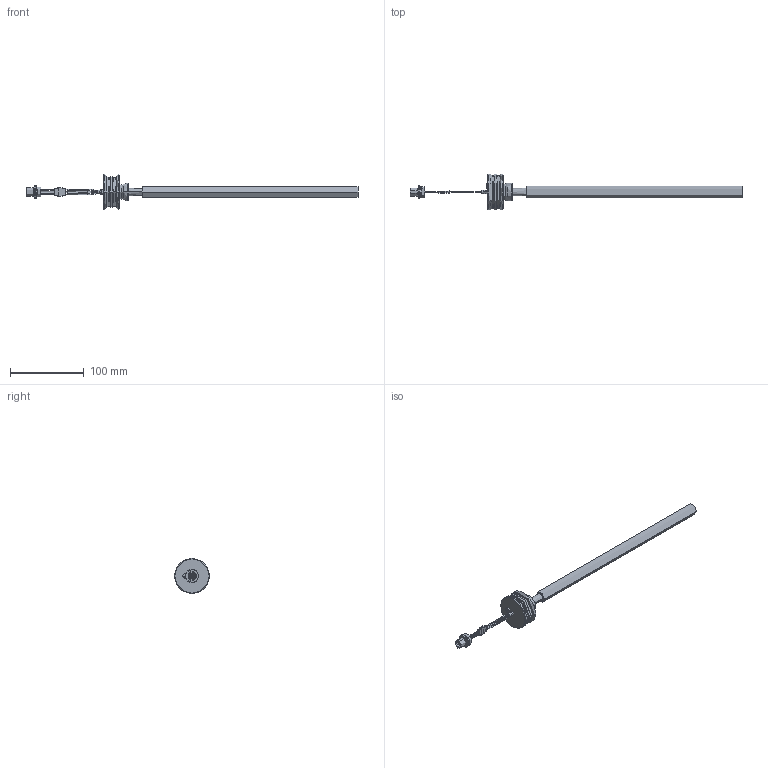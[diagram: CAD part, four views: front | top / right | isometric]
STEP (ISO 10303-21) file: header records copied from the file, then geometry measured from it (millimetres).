
FILE_DESCRIPTION((''),'2;1');
FILE_NAME('EDS-260-Z-LA_MIT_ROHR_ASM','2007-11-29T',('11000065'),(''),'PRO/ENGINEER BY PARAMETRIC TECHNOLOGY CORPORATION, 2007160','PRO/ENGINEER BY PARAMETRIC TECHNOLOGY CORPORATION, 2007160','');
FILE_SCHEMA(('AUTOMOTIVE_DESIGN { 1 2 10303 214 0 1 1 1 }'));
Length unit declared in the file: millimetre
Products named in the file (3): EDS-260-Z-LA; MESSROHR; EDS-260-Z-LA_MIT_ROHR_ASM
Assembly tree (2 placements, depth 2):
  EDS-260-Z-LA_MIT_ROHR_ASM
    EDS-260-Z-LA
    MESSROHR
Bounding box: 450.49 x 48 x 48 mm (x, y, z)
Topology: 2 solids, 6 shells, 574 faces, 1586 edges, 1003 vertices
Faces by surface type: plane 373, cylinder 101, torus 46, cone 46, bspline 8
Entity records: 21107 total; most frequent: CARTESIAN_POINT 5529, ORIENTED_EDGE 3128, DIRECTION 3044, EDGE_CURVE 1584, AXIS2_PLACEMENT_3D 1034, VERTEX_POINT 1003, VECTOR 976, LINE 976
